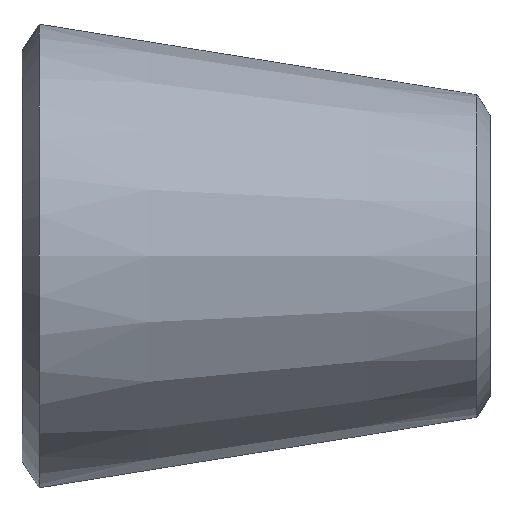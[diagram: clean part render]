
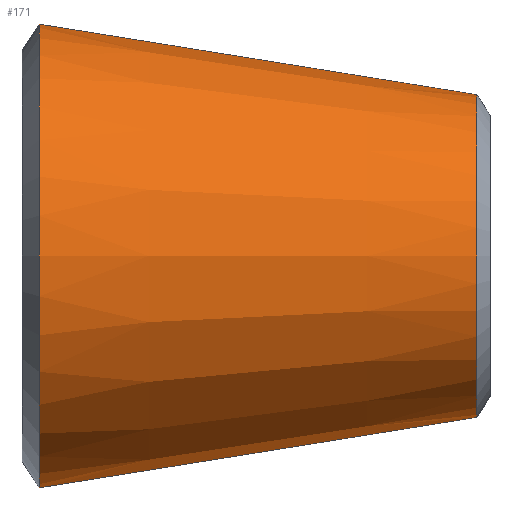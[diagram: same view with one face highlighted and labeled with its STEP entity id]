
A CAD part, front view. The second image highlights one B-rep face of the part: STEP entity #171.
In plain terms, the highlighted conical face has half-angle 9.138 degrees and reference radius 30.25 mm.
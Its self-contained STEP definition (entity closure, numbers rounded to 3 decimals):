
#8 = VECTOR ( 'NONE', #228, 1000. ) ;
#40 = CARTESIAN_POINT ( 'NONE',  ( 88.9, 0., -30.25 ) ) ;
#56 = DIRECTION ( 'NONE',  ( 0., 0., 1. ) ) ;
#64 = DIRECTION ( 'NONE',  ( 0., 0., 1. ) ) ;
#90 = DIRECTION ( 'NONE',  ( 0., 0., 1. ) ) ;
#92 = EDGE_CURVE ( 'NONE', #96, #160, #347, .T. ) ;
#93 = CARTESIAN_POINT ( 'NONE',  ( 86.416, 0., 30.65 ) ) ;
#96 = VERTEX_POINT ( 'NONE', #248 ) ;
#131 = ORIENTED_EDGE ( 'NONE', *, *, #92, .F. ) ;
#134 = ORIENTED_EDGE ( 'NONE', *, *, #388, .F. ) ;
#140 = ORIENTED_EDGE ( 'NONE', *, *, #440, .T. ) ;
#150 = CARTESIAN_POINT ( 'NONE',  ( 3.236, 0., -44.029 ) ) ;
#160 = VERTEX_POINT ( 'NONE', #150 ) ;
#171 = ADVANCED_FACE ( 'NONE', ( #281 ), #226, .T. ) ;
#177 = DIRECTION ( 'NONE',  ( -0.987, 0., -0.159 ) ) ;
#211 = VECTOR ( 'NONE', #177, 1000. ) ;
#226 = CONICAL_SURFACE ( 'NONE', #258, 30.25, 0.159 ) ;
#228 = DIRECTION ( 'NONE',  ( -0.987, 0., 0.159 ) ) ;
#229 = EDGE_LOOP ( 'NONE', ( #131, #259, #140, #134 ) ) ;
#233 = DIRECTION ( 'NONE',  ( -1., 0., 0. ) ) ;
#248 = CARTESIAN_POINT ( 'NONE',  ( 86.416, 0., -30.65 ) ) ;
#258 = AXIS2_PLACEMENT_3D ( 'NONE', #434, #363, #56 ) ;
#259 = ORIENTED_EDGE ( 'NONE', *, *, #277, .T. ) ;
#266 = LINE ( 'NONE', #407, #8 ) ;
#277 = EDGE_CURVE ( 'NONE', #96, #399, #313, .T. ) ;
#281 = FACE_OUTER_BOUND ( 'NONE', #229, .T. ) ;
#299 = CARTESIAN_POINT ( 'NONE',  ( 3.236, 0., 44.029 ) ) ;
#313 = CIRCLE ( 'NONE', #344, 30.65 ) ;
#324 = DIRECTION ( 'NONE',  ( -1., 0., 0. ) ) ;
#327 = AXIS2_PLACEMENT_3D ( 'NONE', #370, #233, #64 ) ;
#343 = CARTESIAN_POINT ( 'NONE',  ( 86.416, 0., 0. ) ) ;
#344 = AXIS2_PLACEMENT_3D ( 'NONE', #343, #324, #90 ) ;
#347 = LINE ( 'NONE', #40, #211 ) ;
#363 = DIRECTION ( 'NONE',  ( -1., 0., 0. ) ) ;
#370 = CARTESIAN_POINT ( 'NONE',  ( 3.236, 0., 0. ) ) ;
#388 = EDGE_CURVE ( 'NONE', #160, #412, #435, .T. ) ;
#399 = VERTEX_POINT ( 'NONE', #93 ) ;
#407 = CARTESIAN_POINT ( 'NONE',  ( 88.9, 0., 30.25 ) ) ;
#412 = VERTEX_POINT ( 'NONE', #299 ) ;
#434 = CARTESIAN_POINT ( 'NONE',  ( 88.9, 0., 0. ) ) ;
#435 = CIRCLE ( 'NONE', #327, 44.029 ) ;
#440 = EDGE_CURVE ( 'NONE', #399, #412, #266, .T. ) ;
